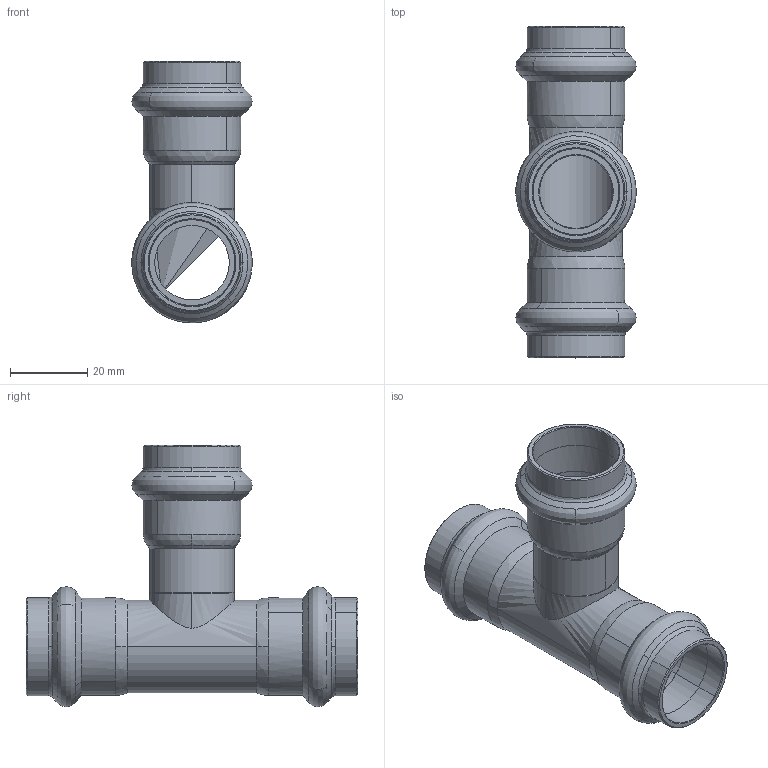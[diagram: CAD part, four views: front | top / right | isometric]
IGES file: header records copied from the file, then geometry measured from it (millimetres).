
Start section: Elysium IGES Interface
Global section: file name: C:\3d modellen sudo\C-Pr VP\SP8130V\8130VW22.igs; native system: CoCreate Modeling 17.00A  17-Jun-2010; preprocessor: CoCreate IGES_3D V2.2; author: Unknown; organization: Unknown; date: 20130129.161553; units: millimetre
Bounding box: 31.19 x 86.01 x 67.84 mm (x, y, z)
Surface area: 19791.7 mm2 (no closed solid volume)
Topology: 0 solids, 1 shells, 130 faces, 327 edges, 205 vertices
Faces by surface type: bspline 130
